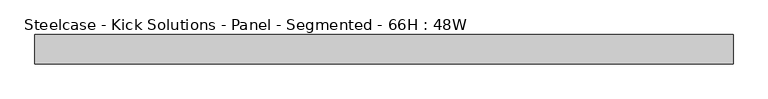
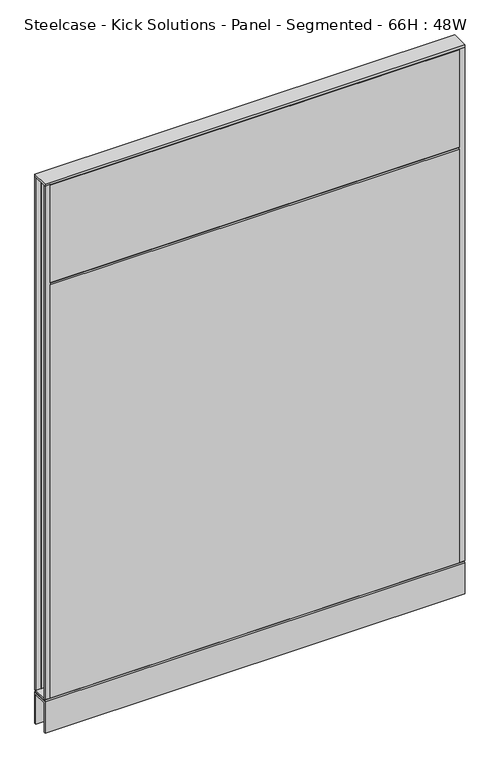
"""IFC4 building model written with IfcOpenShell, lengths in millimetres: furniture geometry, Steelcase - Kick Solutions - Panel - Segmented - 66H : 48W."""

import ifcopenshell
import ifcopenshell.guid

model = None  # the IFC model being written
_history = None  # IfcOwnerHistory: only IFC2X3 demands one
_inside = {}  # id of a spatial element -> (the spatial element, [elements in it])
_under = {}  # id of a project, library or spatial element -> (it, [spatial elements below it])
_declared = {}  # id of a project -> (the project, [libraries it declares])
_typed = {}  # id of a type object -> (the type object, [elements of that type])
_made_of = {}  # id of a material, layer set ... -> (it, [elements and type objects made of it])


def new_model(schema):
    """Start an empty IFC model of exactly this schema.

    Asked for "IFC4X3", IfcOpenShell would pick the latest addendum, in which some entities
    have other attributes; the version numbers below select the first issue.
    IFC2X3 requires an IfcOwnerHistory on every rooted entity: one is made here for all.
    """
    global model, _history
    if schema == "IFC4X3":
        model = ifcopenshell.file(schema_version=(4, 3, 0, 0))
    else:
        model = ifcopenshell.file(schema=schema)
    _inside.clear()
    _under.clear()
    _declared.clear()
    _typed.clear()
    _made_of.clear()
    _history = None
    if model.schema == "IFC2X3":
        org = make("IfcOrganization", Name="unknown")
        user = make(
            "IfcPersonAndOrganization",
            ThePerson=make("IfcPerson", FamilyName="unknown"),
            TheOrganization=org,
        )
        app = make(
            "IfcApplication",
            ApplicationDeveloper=org,
            Version="unknown",
            ApplicationFullName="unknown",
            ApplicationIdentifier="unknown",
        )
        _history = make(
            "IfcOwnerHistory",
            OwningUser=user,
            OwningApplication=app,
            ChangeAction="ADDED",
            CreationDate=0,
        )
    return model


def make(cls, **values):
    """One entity of the class cls with the attributes given. An attribute that is None is left unset."""
    return model.create_entity(
        cls, **{name: value for name, value in values.items() if value is not None}
    )


def rooted(cls, **values):
    """An entity with a GlobalId (a new one), such as an element, a storey or a relation."""
    return make(cls, GlobalId=ifcopenshell.guid.new(), OwnerHistory=_history, **values)


def si_unit(unit_type, name, prefix=None):
    """IfcSIUnit, for example si_unit("LENGTHUNIT", "METRE", prefix="MILLI")."""
    return make("IfcSIUnit", UnitType=unit_type, Prefix=prefix, Name=name)


def assignment(units):
    """IfcUnitAssignment: the units of a project."""
    return None if units is None else make("IfcUnitAssignment", Units=units)


def point(xyz):
    """IfcCartesianPoint."""
    return None if xyz is None else make("IfcCartesianPoint", Coordinates=xyz)


def direction(xyz):
    """IfcDirection."""
    return None if xyz is None else make("IfcDirection", DirectionRatios=xyz)


def frame(location, z_axis=None, x_axis=None):
    """IfcAxis2Placement3D, a coordinate frame: its origin and axes. An axis left out is left unset."""
    return make(
        "IfcAxis2Placement3D",
        Location=point(location),
        Axis=direction(z_axis),
        RefDirection=direction(x_axis),
    )


def origin():
    """The frame at (0, 0, 0) with its axes left unset."""
    return frame((0.0, 0.0, 0.0))


def place(relative_to, where):
    """IfcLocalPlacement: puts the frame where relative to a parent placement (None: the world)."""
    return make(
        "IfcLocalPlacement", PlacementRelTo=relative_to, RelativePlacement=where
    )


def context(
    kind, dimensions, precision=None, world=None, true_north=None, identifier=None
):
    """IfcGeometricRepresentationContext, for example the 3D "Model" context."""
    return make(
        "IfcGeometricRepresentationContext",
        ContextIdentifier=identifier,
        ContextType=kind,
        CoordinateSpaceDimension=dimensions,
        Precision=precision,
        WorldCoordinateSystem=world,
        TrueNorth=true_north,
    )


def project(units=None, contexts=None):
    """IfcProject with its units and contexts."""
    return rooted(
        "IfcProject",
        Name="project",
        RepresentationContexts=contexts,
        UnitsInContext=assignment(units),
    )


def spatial(cls, under=None, at=None, **own):
    """A site, building, storey or space (cls), placed at a placement, below another one or the project."""
    s = rooted(cls, ObjectPlacement=at, **own)
    if under is not None:
        _under.setdefault(under.id(), (under, []))[1].append(s)
    return s


def polyline(points):
    """IfcPolyline through the points."""
    return make("IfcPolyline", Points=[point(p) for p in points])


def outline(outer, holes=None, kind="AREA"):
    """IfcArbitraryClosedProfileDef: a profile drawn as a closed curve; with holes, ...WithVoids."""
    if holes is None:
        return make("IfcArbitraryClosedProfileDef", ProfileType=kind, OuterCurve=outer)
    return make(
        "IfcArbitraryProfileDefWithVoids",
        ProfileType=kind,
        OuterCurve=outer,
        InnerCurves=holes,
    )


def extrude(swept, where, along, depth):
    """IfcExtrudedAreaSolid: the profile swept, set in the frame where, extruded along a direction by depth."""
    return make(
        "IfcExtrudedAreaSolid",
        SweptArea=swept,
        Position=where,
        ExtrudedDirection=direction(along),
        Depth=depth,
    )


def shape(context_of_items, identifier, shape_type, items):
    """IfcShapeRepresentation: the items that make up one representation, for example the "Body"."""
    return make(
        "IfcShapeRepresentation",
        ContextOfItems=context_of_items,
        RepresentationIdentifier=identifier,
        RepresentationType=shape_type,
        Items=items,
    )


def source(mapping_origin, context_of_items, identifier, shape_type, items):
    """IfcRepresentationMap: a shape defined once, which mapped items show again and again."""
    return make(
        "IfcRepresentationMap",
        MappingOrigin=mapping_origin,
        MappedRepresentation=shape(context_of_items, identifier, shape_type, items),
    )


def transform(
    local_origin,
    x_axis=None,
    y_axis=None,
    z_axis=None,
    scale=None,
    scale2=None,
    scale3=None,
    uniform=True,
):
    """IfcCartesianTransformationOperator3D, or its non-uniform kind. x_axis, y_axis, z_axis: its Axis1, 2, 3."""
    if uniform:
        return make(
            "IfcCartesianTransformationOperator3D",
            Axis1=direction(x_axis),
            Axis2=direction(y_axis),
            LocalOrigin=point(local_origin),
            Scale=scale,
            Axis3=direction(z_axis),
        )
    return make(
        "IfcCartesianTransformationOperator3DnonUniform",
        Axis1=direction(x_axis),
        Axis2=direction(y_axis),
        LocalOrigin=point(local_origin),
        Scale=scale,
        Axis3=direction(z_axis),
        Scale2=scale2,
        Scale3=scale3,
    )


def mapped(mapping_source, mapping_target):
    """IfcMappedItem: shows the shape of a source again, moved by a transform."""
    return make(
        "IfcMappedItem", MappingSource=mapping_source, MappingTarget=mapping_target
    )


def made_of(thing, what):
    """Note that an element or type object is made of a material, layer set ...; save() writes the relation."""
    if what is not None:
        _made_of.setdefault(what.id(), (what, []))[1].append(thing)
    return thing


def element(
    cls,
    number,
    at=None,
    inside=None,
    cuts=None,
    type_object=None,
    material=None,
    context=None,
    identifier="Body",
    shape_type=None,
    held_by="IfcProductDefinitionShape",
    body=None,
    shapes=None,
    **own,
):
    """One element of the class cls, such as IfcWall. Its Tag is "e" and its number.

    at: its placement. inside: the storey or other place that contains it. cuts: it is an
    opening in that element (IfcRelVoidsElement). A single representation is given by context,
    identifier, shape_type and body (its items); several are given by shapes. held_by: the class
    of the entity that holds the representations. save() writes the other relations.
    """
    e = rooted(cls, Tag="e%d" % number, ObjectPlacement=at, **own)
    if body is not None:
        shapes = [shape(context, identifier, shape_type, body)]
    if shapes is not None:
        e.Representation = make(held_by, Representations=shapes)
    if inside is not None:
        _inside.setdefault(inside.id(), (inside, []))[1].append(e)
    if cuts is not None:
        rooted(
            "IfcRelVoidsElement", RelatingBuildingElement=cuts, RelatedOpeningElement=e
        )
    if type_object is not None:
        _typed.setdefault(type_object.id(), (type_object, []))[1].append(e)
    return made_of(e, material)


def aggregate(whole, parts):
    """IfcRelAggregates: a whole, such as a stair, and the parts it consists of."""
    return rooted("IfcRelAggregates", RelatingObject=whole, RelatedObjects=parts)


def save(model, path):
    """Write the relations noted so far, then the file.

    IfcRelAggregates (storeys below a building ...), IfcRelContainedInSpatialStructure (elements
    in a storey), IfcRelDefinesByType, IfcRelAssociatesMaterial and IfcRelDeclares: one each for
    every whole, place, type object, material and project.
    """
    for whole, parts in _under.values():
        aggregate(whole, parts)
    for where, things in _inside.values():
        rooted(
            "IfcRelContainedInSpatialStructure",
            RelatedElements=things,
            RelatingStructure=where,
        )
    for kind, things in _typed.values():
        rooted("IfcRelDefinesByType", RelatedObjects=things, RelatingType=kind)
    for what, things in _made_of.values():
        rooted("IfcRelAssociatesMaterial", RelatedObjects=things, RelatingMaterial=what)
    for by, libraries in _declared.values():
        rooted("IfcRelDeclares", RelatingContext=by, RelatedDefinitions=libraries)
    model.write(path)


def steelcase_kick_solutions_panel_segmented_66h_48w_f825cdc4(model_context):
    return source(origin(), model_context, "Body", "SweptSolid", [
        extrude(outline(polyline([(1.5e-06, 101.600003), (-3.175, 101.600003), (-3.175, 1676.4), (1.5e-06, 1673.3188448), (1.5e-06, 101.600003)])), frame((15.8749996, 0.0, 0.0), z_axis=(1.0, 0.0, 0.0), x_axis=(0.0, 1.0, 0.0)), (0.0, 0.0, 1.0), 1187.4500008),
        extrude(outline(polyline([(-50.8000015, 1374.6811552), (-50.8000015, 1673.3188448), (-47.625, 1676.4), (-47.625, 1371.6), (-50.8000015, 1374.6811552)])), frame((15.8749996, 0.0, 0.0), z_axis=(1.0, 0.0, 0.0), x_axis=(0.0, 1.0, 0.0)), (0.0, 0.0, 1.0), 1187.4500008),
        extrude(outline(polyline([(-50.8000015, 101.600003), (-50.8000015, 1368.5188448), (-47.625, 1371.6), (-47.625, 101.600003), (-50.8000015, 101.600003)])), frame((15.8749996, 0.0, 0.0), z_axis=(1.0, 0.0, 0.0), x_axis=(0.0, 1.0, 0.0)), (0.0, 0.0, 1.0), 1187.4500008),
        extrude(outline(polyline([(1219.2, -3.1750015), (1203.3250004, -3.1750015), (1203.3250004, 0.0), (1219.2, 0.0), (1219.2, -3.1750015)])), frame((0.0, 0.0, 101.7169049), z_axis=(0.0, 0.0, 1.0), x_axis=(1.0, 0.0, 0.0)), (0.0, 0.0, 1.0), 1574.799997),
        extrude(outline(polyline([(15.8749996, -50.8000015), (0.0, -50.8000015), (0.0, -47.625), (15.8749996, -47.625), (15.8749996, -50.8000015)])), frame((0.0, 0.0, 101.7169049), z_axis=(0.0, 0.0, 1.0), x_axis=(1.0, 0.0, 0.0)), (0.0, 0.0, 1.0), 1574.799997),
        extrude(outline(polyline([(-50.7995075, 101.7169049), (-0.000494, 101.7169049), (-3.0583512, 98.5421458), (-47.7416503, 98.5421458), (-50.7995075, 101.7169049)])), frame((0.0, 0.0, 0.0), z_axis=(1.0, 0.0, 0.0), x_axis=(0.0, 1.0, 0.0)), (0.0, 0.0, 1.0), 1219.2),
        extrude(outline(polyline([(1219.2, 0.0), (1219.2, -50.8000015), (0.0, -50.8000015), (0.0, 0.0), (1219.2, 0.0)])), frame((0.0, 0.0, 1676.5169018), z_axis=(0.0, 0.0, 1.0), x_axis=(1.0, 0.0, 0.0)), (0.0, 0.0, 1.0), 6.35),
        extrude(outline(polyline([(15.8749996, -3.1750015), (0.0, -3.1750015), (0.0, 0.0), (15.8749996, 0.0), (15.8749996, -3.1750015)])), frame((0.0, 0.0, 101.7169049), z_axis=(0.0, 0.0, 1.0), x_axis=(1.0, 0.0, 0.0)), (0.0, 0.0, 1.0), 1574.799997),
        extrude(outline(polyline([(1219.2, -50.8000015), (1203.3250004, -50.8000015), (1203.3250004, -47.625), (1219.2, -47.625), (1219.2, -50.8000015)])), frame((0.0, 0.0, 101.7169049), z_axis=(0.0, 0.0, 1.0), x_axis=(1.0, 0.0, 0.0)), (0.0, 0.0, 1.0), 1574.799997),
        extrude(outline(polyline([(-50.8000015, 95.3668927), (-47.6247484, 98.5421458), (-3.1752531, 98.5421458), (0.0, 95.3668927), (-50.8000015, 95.3668927)])), frame((0.0, 0.0, 0.0), z_axis=(1.0, 0.0, 0.0), x_axis=(0.0, 1.0, 0.0)), (0.0, 0.0, 1.0), 1219.2),
        extrude(outline(polyline([(0.0, 0.0), (-5.08, 0.0), (-5.08, 90.2869018), (-45.7200015, 90.2869018), (-45.7200015, 0.0), (-50.8000015, 0.0), (-50.8000015, 95.3669018), (0.0, 95.3669018), (0.0, 0.0)])), frame((0.0, 0.0, 0.0), z_axis=(1.0, 0.0, 0.0), x_axis=(0.0, 1.0, 0.0)), (0.0, 0.0, 1.0), 1219.2),
    ])


if __name__ == "__main__":
    model = new_model("IFC4")
    model_context = context("Model", 3, world=origin())
    ifc_project = project(units=[si_unit("LENGTHUNIT", "METRE", prefix="MILLI")], contexts=[model_context])
    site = spatial("IfcSite", under=ifc_project)
    building = spatial("IfcBuilding", under=site)
    placement = place(None, origin())
    steelcase_kick_solutions_panel_segmented_66h_48w_shape = steelcase_kick_solutions_panel_segmented_66h_48w_f825cdc4(model_context)
    element("IfcFurniture", 1, ObjectType="Steelcase - Kick Solutions - Panel - Segmented - 66H : 48W", at=placement, inside=building, context=model_context, shape_type="MappedRepresentation", body=[
        mapped(steelcase_kick_solutions_panel_segmented_66h_48w_shape, transform((0.0, 0.0, 0.0), x_axis=(1.0, 0.0, 0.0), y_axis=(0.0, 1.0, 0.0), z_axis=(0.0, 0.0, 1.0))),
    ])
    save(model, "model.ifc")
